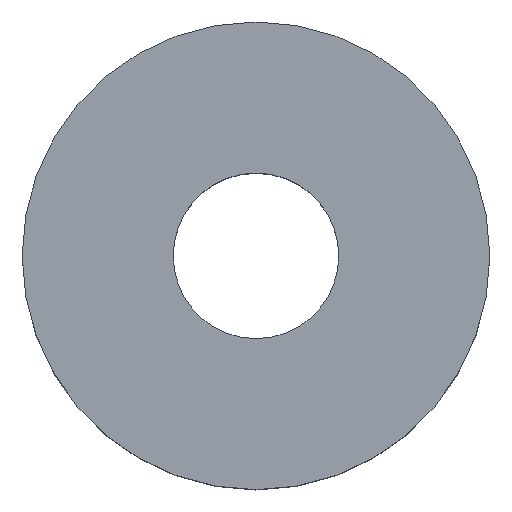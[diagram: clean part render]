
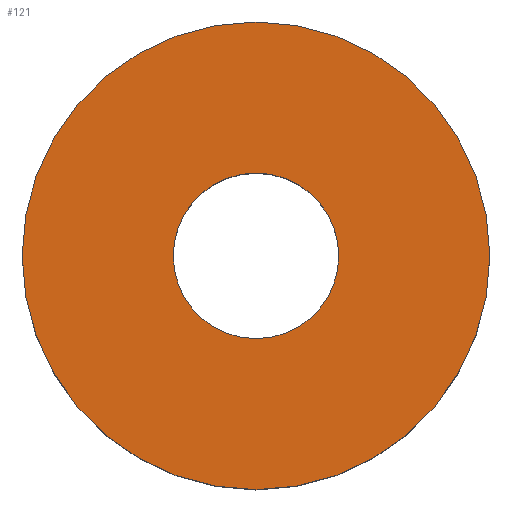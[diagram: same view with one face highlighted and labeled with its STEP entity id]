
A CAD part, top view. The second image highlights one B-rep face of the part: STEP entity #121.
In plain terms, the highlighted planar face has unit normal (0, 0, 1).
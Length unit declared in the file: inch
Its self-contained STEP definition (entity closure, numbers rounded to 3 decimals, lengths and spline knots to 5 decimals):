
#7 = CARTESIAN_POINT ( 'NONE',  ( 0.25, 0., 0.201 ) ) ;
#8 = VERTEX_POINT ( 'NONE', #211 ) ;
#10 = DIRECTION ( 'NONE',  ( 0., 0., -1. ) ) ;
#11 = DIRECTION ( 'NONE',  ( 1., 0., 0. ) ) ;
#15 = AXIS2_PLACEMENT_3D ( 'NONE', #119, #10, #140 ) ;
#36 = CIRCLE ( 'NONE', #187, 0.25 ) ;
#58 = AXIS2_PLACEMENT_3D ( 'NONE', #243, #120, #11 ) ;
#61 = CIRCLE ( 'NONE', #58, 0.0885 ) ;
#63 = DIRECTION ( 'NONE',  ( 0., 0., 1. ) ) ;
#64 = DIRECTION ( 'NONE',  ( 0., 0., 1. ) ) ;
#68 = CARTESIAN_POINT ( 'NONE',  ( 0.0885, 0., 0.201 ) ) ;
#70 = CIRCLE ( 'NONE', #15, 0.0885 ) ;
#91 = AXIS2_PLACEMENT_3D ( 'NONE', #220, #103, #244 ) ;
#96 = CARTESIAN_POINT ( 'NONE',  ( -0.25, 0., 0.201 ) ) ;
#103 = DIRECTION ( 'NONE',  ( 0., 0., 1. ) ) ;
#110 = CIRCLE ( 'NONE', #91, 0.25 ) ;
#111 = VERTEX_POINT ( 'NONE', #7 ) ;
#117 = CARTESIAN_POINT ( 'NONE',  ( 0., 0., 0.201 ) ) ;
#119 = CARTESIAN_POINT ( 'NONE',  ( 0., 0., 0.201 ) ) ;
#120 = DIRECTION ( 'NONE',  ( 0., 0., -1. ) ) ;
#121 = ADVANCED_FACE ( 'NONE', ( #186, #181 ), #155, .T. ) ;
#137 = EDGE_CURVE ( 'NONE', #111, #139, #36, .T. ) ;
#139 = VERTEX_POINT ( 'NONE', #96 ) ;
#140 = DIRECTION ( 'NONE',  ( 1., 0., 0. ) ) ;
#153 = EDGE_LOOP ( 'NONE', ( #196, #240 ) ) ;
#155 = PLANE ( 'NONE',  #228 ) ;
#175 = CARTESIAN_POINT ( 'NONE',  ( 0., 0., 0.201 ) ) ;
#181 = FACE_BOUND ( 'NONE', #153, .T. ) ;
#186 = FACE_OUTER_BOUND ( 'NONE', #236, .T. ) ;
#187 = AXIS2_PLACEMENT_3D ( 'NONE', #175, #64, #197 ) ;
#188 = EDGE_CURVE ( 'NONE', #224, #8, #70, .T. ) ;
#195 = DIRECTION ( 'NONE',  ( 1., 0., 0. ) ) ;
#196 = ORIENTED_EDGE ( 'NONE', *, *, #188, .T. ) ;
#197 = DIRECTION ( 'NONE',  ( 1., 0., 0. ) ) ;
#207 = EDGE_CURVE ( 'NONE', #8, #224, #61, .T. ) ;
#211 = CARTESIAN_POINT ( 'NONE',  ( -0.0885, 0., 0.201 ) ) ;
#215 = ORIENTED_EDGE ( 'NONE', *, *, #247, .T. ) ;
#220 = CARTESIAN_POINT ( 'NONE',  ( 0., 0., 0.201 ) ) ;
#224 = VERTEX_POINT ( 'NONE', #68 ) ;
#228 = AXIS2_PLACEMENT_3D ( 'NONE', #117, #63, #195 ) ;
#236 = EDGE_LOOP ( 'NONE', ( #251, #215 ) ) ;
#240 = ORIENTED_EDGE ( 'NONE', *, *, #207, .T. ) ;
#243 = CARTESIAN_POINT ( 'NONE',  ( 0., 0., 0.201 ) ) ;
#244 = DIRECTION ( 'NONE',  ( 1., 0., 0. ) ) ;
#247 = EDGE_CURVE ( 'NONE', #139, #111, #110, .T. ) ;
#251 = ORIENTED_EDGE ( 'NONE', *, *, #137, .T. ) ;
